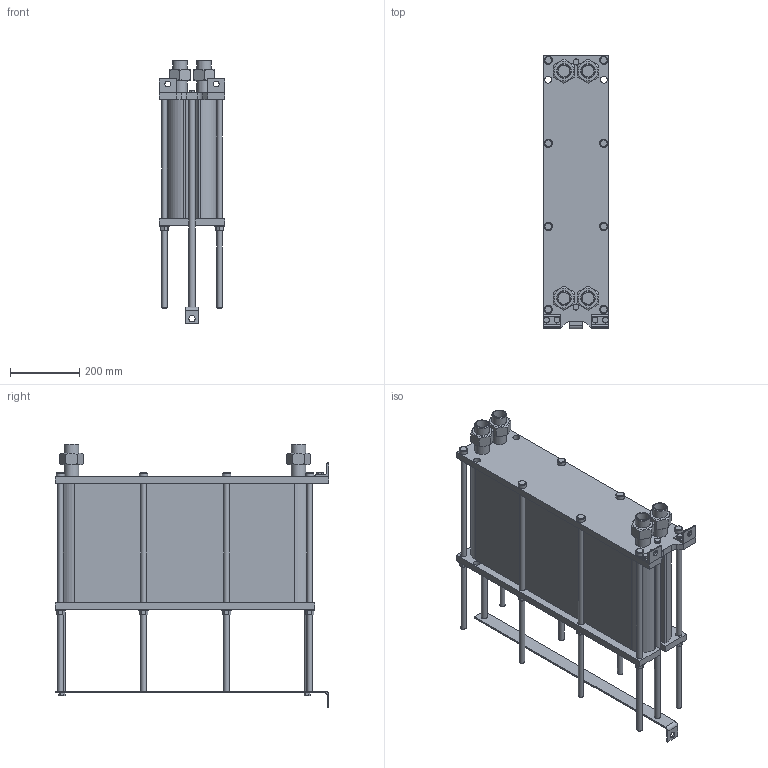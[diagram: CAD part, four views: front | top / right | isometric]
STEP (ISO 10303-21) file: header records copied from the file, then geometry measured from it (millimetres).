
FILE_DESCRIPTION(/* description */ (''),/* implementation_level */ '2;1');
FILE_NAME(/* name */ 'C:\Users\zhuro\Desktop\ENCO\TO\ЭН-008\ЭН-0,5-008-111-1.stp',/* time_stamp */ '2022-06-06T10:55:57+03:00',/* author */ ('zhuro'),/* organization */ (''),/* preprocessor_version */ 'ST-DEVELOPER v18.1',/* originating_system */ 'Autodesk Inventor 2022',/* authorisation */ '');
FILE_SCHEMA (('AUTOMOTIVE_DESIGN { 1 0 10303 214 3 1 1 }'));
Length unit declared in the file: millimetre
Products named in the file (1): ЭН-0,5-008-111-1
Bounding box: 190 x 790 x 761.8 mm (x, y, z)
Volume: 42093514.2 mm3; surface area: 2114571.9 mm2
Topology: 40 solids, 40 shells, 428 faces, 924 edges, 606 vertices
Faces by surface type: plane 273, cylinder 109, cone 40, torus 6
Full cylindrical faces by diameter (mm): 12 x6, 14 x2, 16 x20, 17 x8, 18 x19, 20 x5, 24 x8, 28 x8, 34.3 x8, 42.3 x8
Entity records: 15843 total; most frequent: CARTESIAN_POINT 5991, DIRECTION 1984, ORIENTED_EDGE 1848, EDGE_CURVE 924, AXIS2_PLACEMENT_3D 715, VERTEX_POINT 606, LINE 554, VECTOR 554
